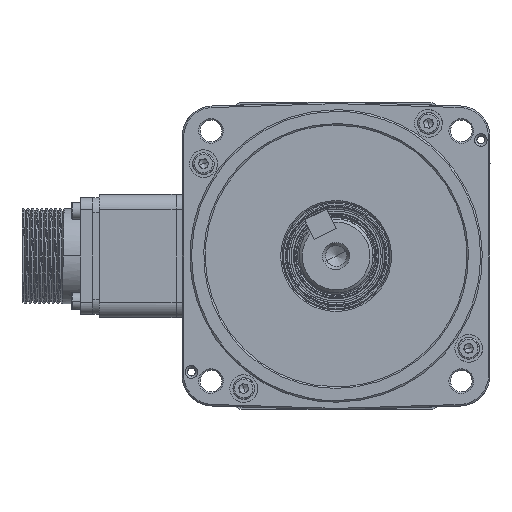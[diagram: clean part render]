
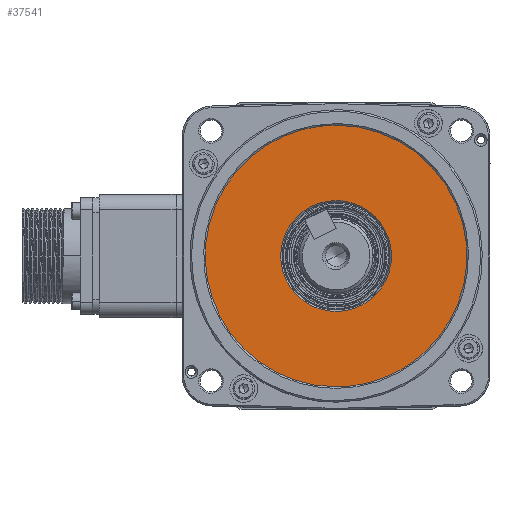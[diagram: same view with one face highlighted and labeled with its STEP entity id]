
A CAD part, left-side view. The second image highlights one B-rep face of the part: STEP entity #37541.
In plain terms, the highlighted free-form (B-spline) face has degree [1, 1] with [2, 2] control points.
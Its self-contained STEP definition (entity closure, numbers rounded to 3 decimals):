
#450 = ORIENTED_EDGE ( 'NONE', *, *, #24760, .F. ) ;
#1264 = FACE_OUTER_BOUND ( 'NONE', #49263, .T. ) ;
#1526 = CARTESIAN_POINT ( 'NONE',  ( 0., 0., -42.5 ) ) ;
#1617 = CARTESIAN_POINT ( 'NONE',  ( 0., 0., 18. ) ) ;
#4156 = VERTEX_POINT ( 'NONE', #32142 ) ;
#12544 = ORIENTED_EDGE ( 'NONE', *, *, #45132, .F. ) ;
#14633 = CARTESIAN_POINT ( 'NONE',  ( 0., 24.896, -42.5 ) ) ;
#15349 = CARTESIAN_POINT ( 'NONE',  ( 0., 43.01, 43.01 ) ) ;
#16768 = VERTEX_POINT ( 'NONE', #33674 ) ;
#20244 = CARTESIAN_POINT ( 'NONE',  ( 0., -43.01, -43.01 ) ) ;
#21253 = CARTESIAN_POINT ( 'NONE',  ( 0., 18., 10.544 ) ) ;
#23342 = ORIENTED_EDGE ( 'NONE', *, *, #41787, .F. ) ;
#24494 = CARTESIAN_POINT ( 'NONE',  ( 0., 42.5, -24.896 ) ) ;
#24760 = EDGE_CURVE ( 'NONE', #40587, #59945, #53094, .T. ) ;
#25920 = FACE_BOUND ( 'NONE', #51930, .T. ) ;
#26081 = CARTESIAN_POINT ( 'NONE',  ( 0., -85., -42.5 ) ) ;
#26171 = CARTESIAN_POINT ( 'NONE',  ( 0., -36., -18. ) ) ;
#26296 = CARTESIAN_POINT ( 'NONE',  ( 0., 18., -10.544 ) ) ;
#26993 = EDGE_CURVE ( 'NONE', #59945, #40587, #50667, .T. ) ;
#27871 = B_SPLINE_SURFACE_WITH_KNOTS ( 'NONE', 1, 1, ( 
 ( #39884, #15349 ),
 ( #20244, #54723 ) ),
 .UNSPECIFIED., .F., .F., .F.,
 ( 2, 2 ),
 ( 2, 2 ),
 ( 0., 1. ),
 ( 0., 1. ),
 .UNSPECIFIED. ) ;
#29463 = CARTESIAN_POINT ( 'NONE',  ( 0., 42.5, 24.896 ) ) ;
#30364 = CARTESIAN_POINT ( 'NONE',  ( 0., 10.544, 18. ) ) ;
#31027 = CARTESIAN_POINT ( 'NONE',  ( 0., 0., 42.5 ) ) ;
#31122 = CARTESIAN_POINT ( 'NONE',  ( 0., -36., 18. ) ) ;
#31248 = CARTESIAN_POINT ( 'NONE',  ( 0., 0., -18. ) ) ;
#32142 = CARTESIAN_POINT ( 'NONE',  ( 0., 0., -18. ) ) ;
#33674 = CARTESIAN_POINT ( 'NONE',  ( 0., 0., 18. ) ) ;
#34012 = CARTESIAN_POINT ( 'NONE',  ( 0., 0., -42.5 ) ) ;
#34426 = CARTESIAN_POINT ( 'NONE',  ( 0., 0., 42.5 ) ) ;
#37039 =( BOUNDED_CURVE ( )  B_SPLINE_CURVE ( 3, ( #60574, #26171, #31122, #1617 ),
 .UNSPECIFIED., .F., .F. ) 
 B_SPLINE_CURVE_WITH_KNOTS ( ( 4, 4 ),
 ( -3.142, 0. ),
 .UNSPECIFIED. ) 
 CURVE ( )  GEOMETRIC_REPRESENTATION_ITEM ( )  RATIONAL_B_SPLINE_CURVE ( ( 1., 0.333, 0.333, 1. ) ) 
 REPRESENTATION_ITEM ( '' )  );
#37541 = ADVANCED_FACE ( 'NONE', ( #25920, #1264 ), #27871, .F. ) ;
#39884 = CARTESIAN_POINT ( 'NONE',  ( 0., -43.01, 43.01 ) ) ;
#40177 = ORIENTED_EDGE ( 'NONE', *, *, #26993, .F. ) ;
#40587 = VERTEX_POINT ( 'NONE', #43995 ) ;
#41787 = EDGE_CURVE ( 'NONE', #4156, #16768, #37039, .T. ) ;
#43995 = CARTESIAN_POINT ( 'NONE',  ( 0., 0., 42.5 ) ) ;
#44040 = CARTESIAN_POINT ( 'NONE',  ( 0., 0., -42.5 ) ) ;
#45132 = EDGE_CURVE ( 'NONE', #16768, #4156, #46631, .T. ) ;
#45864 = CARTESIAN_POINT ( 'NONE',  ( 0., 0., 18. ) ) ;
#46631 =( BOUNDED_CURVE ( )  B_SPLINE_CURVE ( 3, ( #45864, #30364, #21253, #55751, #26296, #60698, #31248 ),
 .UNSPECIFIED., .F., .F. ) 
 B_SPLINE_CURVE_WITH_KNOTS ( ( 4, 3, 4 ),
 ( -3.142, -1.571, 0. ),
 .UNSPECIFIED. ) 
 CURVE ( )  GEOMETRIC_REPRESENTATION_ITEM ( )  RATIONAL_B_SPLINE_CURVE ( ( 1., 0.805, 0.805, 1., 0.805, 0.805, 1. ) ) 
 REPRESENTATION_ITEM ( '' )  );
#49263 = EDGE_LOOP ( 'NONE', ( #450, #40177 ) ) ;
#50667 =( BOUNDED_CURVE ( )  B_SPLINE_CURVE ( 3, ( #34012, #14633, #24494, #58933, #29463, #63906, #34426 ),
 .UNSPECIFIED., .F., .F. ) 
 B_SPLINE_CURVE_WITH_KNOTS ( ( 4, 3, 4 ),
 ( -3.142, -1.571, 0. ),
 .UNSPECIFIED. ) 
 CURVE ( )  GEOMETRIC_REPRESENTATION_ITEM ( )  RATIONAL_B_SPLINE_CURVE ( ( 1., 0.805, 0.805, 1., 0.805, 0.805, 1. ) ) 
 REPRESENTATION_ITEM ( '' )  );
#51930 = EDGE_LOOP ( 'NONE', ( #12544, #23342 ) ) ;
#53094 =( BOUNDED_CURVE ( )  B_SPLINE_CURVE ( 3, ( #31027, #60043, #26081, #1526 ),
 .UNSPECIFIED., .F., .T. ) 
 B_SPLINE_CURVE_WITH_KNOTS ( ( 4, 4 ),
 ( -3.142, 0. ),
 .UNSPECIFIED. ) 
 CURVE ( )  GEOMETRIC_REPRESENTATION_ITEM ( )  RATIONAL_B_SPLINE_CURVE ( ( 1., 0.333, 0.333, 1. ) ) 
 REPRESENTATION_ITEM ( '' )  );
#54723 = CARTESIAN_POINT ( 'NONE',  ( 0., 43.01, -43.01 ) ) ;
#55751 = CARTESIAN_POINT ( 'NONE',  ( 0., 18., 0. ) ) ;
#58933 = CARTESIAN_POINT ( 'NONE',  ( 0., 42.5, 0. ) ) ;
#59945 = VERTEX_POINT ( 'NONE', #44040 ) ;
#60043 = CARTESIAN_POINT ( 'NONE',  ( 0., -85., 42.5 ) ) ;
#60574 = CARTESIAN_POINT ( 'NONE',  ( 0., 0., -18. ) ) ;
#60698 = CARTESIAN_POINT ( 'NONE',  ( 0., 10.544, -18. ) ) ;
#63906 = CARTESIAN_POINT ( 'NONE',  ( 0., 24.896, 42.5 ) ) ;
